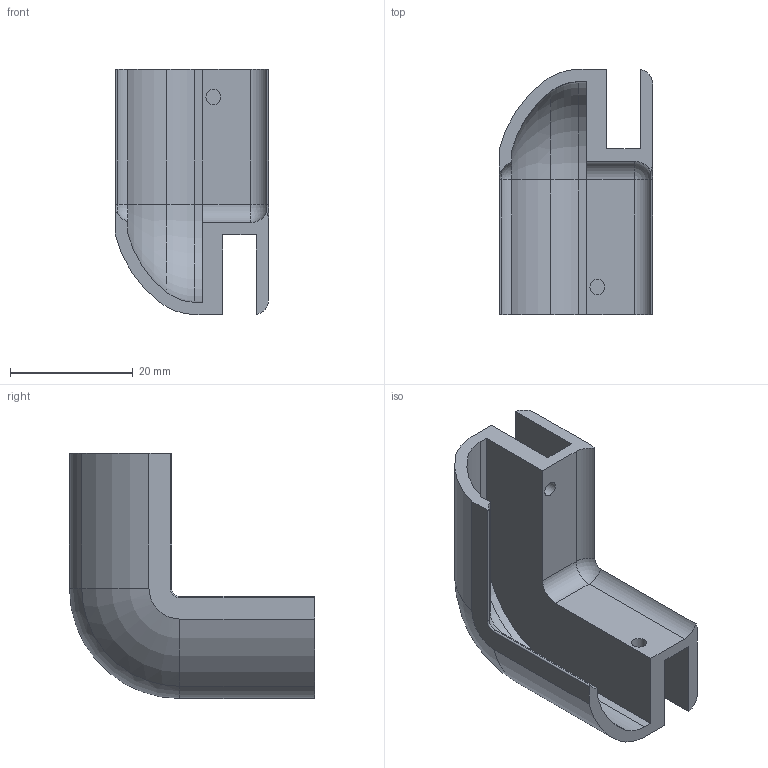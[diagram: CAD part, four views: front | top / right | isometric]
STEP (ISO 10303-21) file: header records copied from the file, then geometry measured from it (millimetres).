
FILE_DESCRIPTION (( 'STEP AP214' ), '1' );
FILE_NAME ('L15846.step', '2024-12-03T16:20:00', ( '' ), ( '' ), 'SwSTEP 2.0', 'SolidWorks 2023', '' );
FILE_SCHEMA (( 'AUTOMOTIVE_DESIGN' ));
Length unit declared in the file: millimetre
Products named in the file (1): L15846
Bounding box: 25 x 40 x 40 mm (x, y, z)
Volume: 8012.1 mm3; surface area: 7678.1 mm2
Topology: 1 solids, 1 shells, 51 faces, 128 edges, 80 vertices
Faces by surface type: cylinder 24, plane 18, torus 7, sphere 2
Full cylindrical faces by diameter (mm): 2.45 x2
Entity records: 1541 total; most frequent: DIRECTION 288, CARTESIAN_POINT 257, ORIENTED_EDGE 250, EDGE_CURVE 125, AXIS2_PLACEMENT_3D 111, VERTEX_POINT 80, VECTOR 66, LINE 66
